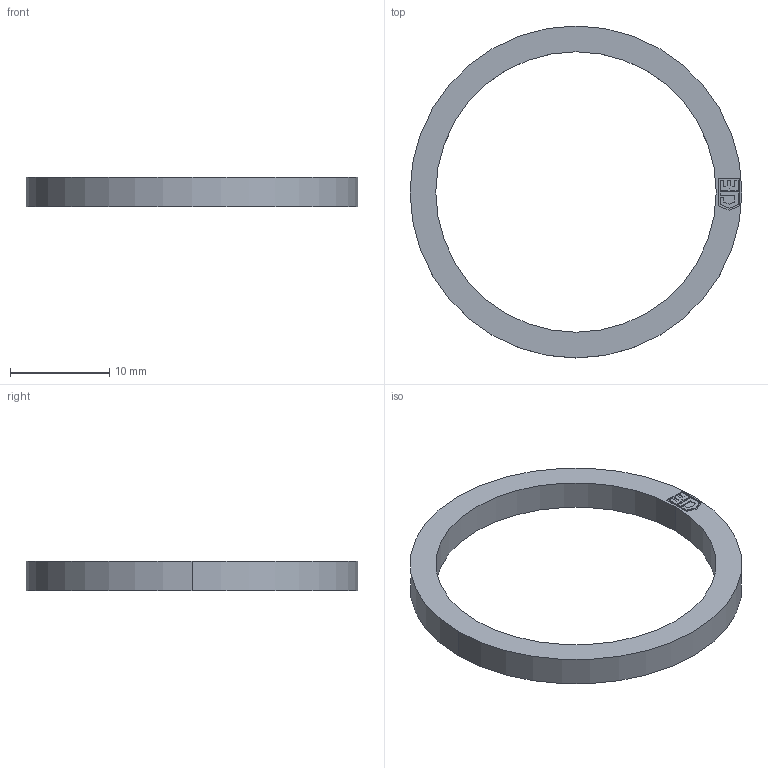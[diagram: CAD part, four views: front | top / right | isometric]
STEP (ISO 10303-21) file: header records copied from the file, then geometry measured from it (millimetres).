
FILE_DESCRIPTION (( 'STEP AP203' ), '1' );
FILE_NAME ('321 D.STEP', '2007-02-26T07:02:45', ( ' ' ), ( '' ), 'SwSTEP 2.0', 'SolidWorks 2005278', '' );
FILE_SCHEMA (( 'CONFIG_CONTROL_DESIGN' ));
Length unit declared in the file: millimetre
Products named in the file (1): 321 D
Bounding box: 33.5 x 33.5 x 3 mm (x, y, z)
Volume: 756.8 mm3; surface area: 1090.1 mm2
Topology: 1 solids, 1 shells, 43 faces, 114 edges, 76 vertices
Faces by surface type: plane 39, cylinder 4
Entity records: 1397 total; most frequent: CARTESIAN_POINT 234, ORIENTED_EDGE 228, DIRECTION 210, EDGE_CURVE 114, VECTOR 106, LINE 106, VERTEX_POINT 76, AXIS2_PLACEMENT_3D 52
